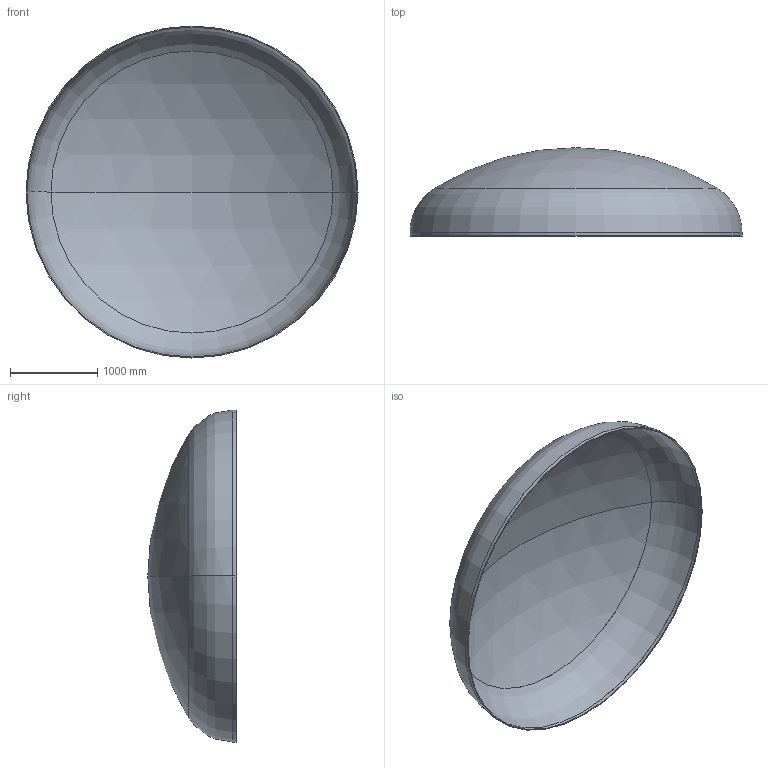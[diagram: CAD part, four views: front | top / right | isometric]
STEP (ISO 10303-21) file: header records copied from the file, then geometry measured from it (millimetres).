
FILE_DESCRIPTION (( 'STEP AP203' ), '1' );
FILE_NAME ('DIN 28013 Korbbogenform_-_Boden DIN 28013 - 3800 x 40 - I - s=11.step', '2016-07-01T21:02:15', ( '' ), ( '' ), 'SwSTEP 2.0', 'SolidWorks 2013', '' );
FILE_SCHEMA (( 'CONFIG_CONTROL_DESIGN' ));
Length unit declared in the file: millimetre
Products named in the file (1): DIN 28013 Korbbogenform_-_Boden DIN 28013 - 3800 x 40 - I - s=11
Bounding box: 3800 x 1010.95 x 3800 mm (x, y, z)
Volume: 177359181.2 mm3; surface area: 32378302.6 mm2
Topology: 1 solids, 1 shells, 13 faces, 24 edges, 14 vertices
Faces by surface type: torus 4, cylinder 4, sphere 4, plane 1
Entity records: 407 total; most frequent: DIRECTION 72, CARTESIAN_POINT 52, ORIENTED_EDGE 48, AXIS2_PLACEMENT_3D 34, EDGE_CURVE 24, CIRCLE 20, EDGE_LOOP 14, VERTEX_POINT 14
